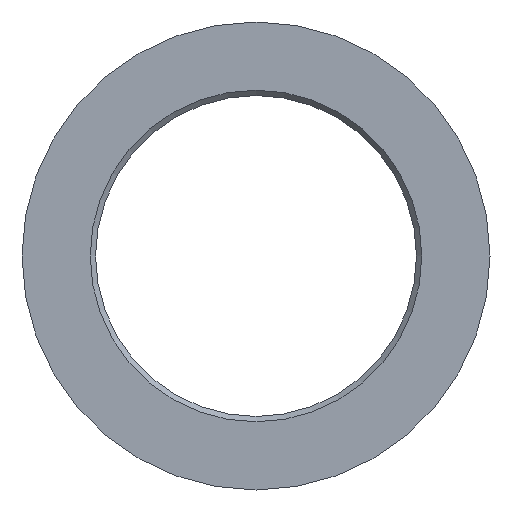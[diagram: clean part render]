
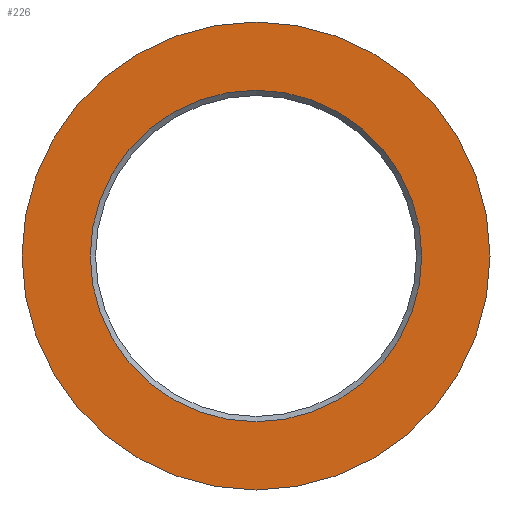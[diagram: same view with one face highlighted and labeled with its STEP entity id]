
A CAD part, left-side view. The second image highlights one B-rep face of the part: STEP entity #226.
In plain terms, the highlighted planar face has unit normal (-1, 0, 0).
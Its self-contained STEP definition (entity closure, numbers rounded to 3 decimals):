
#15=FACE_BOUND('',#53,.T.);
#21=PLANE('',#268);
#36=FACE_OUTER_BOUND('',#52,.T.);
#52=EDGE_LOOP('',(#167));
#53=EDGE_LOOP('',(#168));
#92=CIRCLE('',#267,12.4);
#93=CIRCLE('',#269,17.5);
#110=VERTEX_POINT('',#386);
#111=VERTEX_POINT('',#390);
#130=EDGE_CURVE('',#110,#110,#92,.T.);
#132=EDGE_CURVE('',#111,#111,#93,.T.);
#167=ORIENTED_EDGE('',*,*,#132,.F.);
#168=ORIENTED_EDGE('',*,*,#130,.F.);
#226=ADVANCED_FACE('',(#36,#15),#21,.T.);
#267=AXIS2_PLACEMENT_3D('',#387,#314,#315);
#268=AXIS2_PLACEMENT_3D('',#389,#317,#318);
#269=AXIS2_PLACEMENT_3D('',#391,#319,#320);
#314=DIRECTION('center_axis',(-1.,0.,0.));
#315=DIRECTION('ref_axis',(0.,-1.,0.));
#317=DIRECTION('center_axis',(-1.,0.,0.));
#318=DIRECTION('ref_axis',(0.,0.,1.));
#319=DIRECTION('center_axis',(1.,0.,0.));
#320=DIRECTION('ref_axis',(0.,0.,-1.));
#386=CARTESIAN_POINT('',(0.,12.4,0.));
#387=CARTESIAN_POINT('Origin',(0.,0.,0.));
#389=CARTESIAN_POINT('Origin',(0.,17.5,0.));
#390=CARTESIAN_POINT('',(0.,-17.5,0.));
#391=CARTESIAN_POINT('Origin',(0.,0.,0.));
